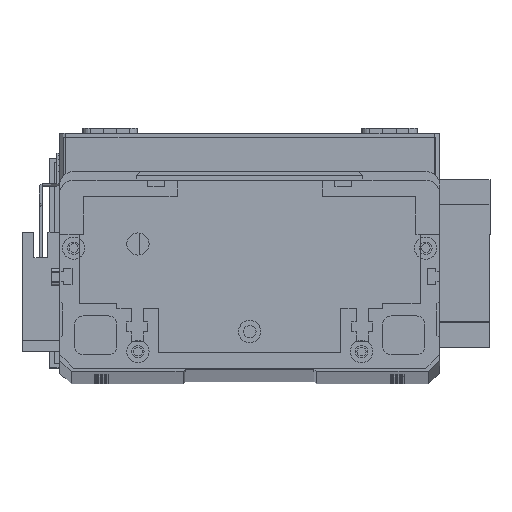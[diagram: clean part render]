
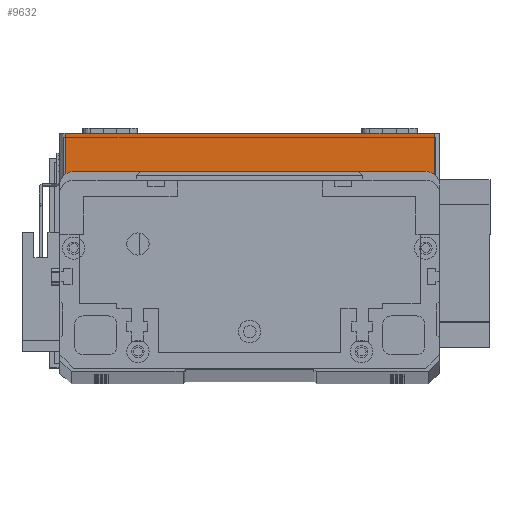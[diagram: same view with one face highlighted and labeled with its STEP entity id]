
A CAD part, top view. The second image highlights one B-rep face of the part: STEP entity #9632.
In plain terms, the highlighted planar face has unit normal (0, 0, 1) as drawn and (0, -1, 0) by its records, which use the part's own axes.
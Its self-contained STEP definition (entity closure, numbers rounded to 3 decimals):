
#1073 = VERTEX_POINT ( 'NONE', #17473 ) ;
#1252 = ORIENTED_EDGE ( 'NONE', *, *, #26222, .T. ) ;
#2216 = EDGE_CURVE ( 'NONE', #2953, #9731, #11970, .T. ) ;
#2273 = CARTESIAN_POINT ( 'NONE',  ( 2., 0., 19.5 ) ) ;
#2953 = VERTEX_POINT ( 'NONE', #4417 ) ;
#2981 = CARTESIAN_POINT ( 'NONE',  ( 0., 0., 19.5 ) ) ;
#3400 = PLANE ( 'NONE',  #9143 ) ;
#4417 = CARTESIAN_POINT ( 'NONE',  ( 134., 0., 0. ) ) ;
#4966 = VECTOR ( 'NONE', #8282, 1000. ) ;
#6146 = LINE ( 'NONE', #2273, #10904 ) ;
#6291 = CARTESIAN_POINT ( 'NONE',  ( 0., 0., 0. ) ) ;
#6823 = VERTEX_POINT ( 'NONE', #14331 ) ;
#7053 = LINE ( 'NONE', #2981, #25126 ) ;
#8169 = CARTESIAN_POINT ( 'NONE',  ( 0., 0., 19.5 ) ) ;
#8282 = DIRECTION ( 'NONE',  ( 0., 0., 1. ) ) ;
#8649 = DIRECTION ( 'NONE',  ( 1., 0., 0. ) ) ;
#8695 = VECTOR ( 'NONE', #8649, 1000. ) ;
#9143 = AXIS2_PLACEMENT_3D ( 'NONE', #8169, #27030, #12863 ) ;
#9632 = ADVANCED_FACE ( 'NONE', ( #30252 ), #3400, .F. ) ;
#9731 = VERTEX_POINT ( 'NONE', #17930 ) ;
#10904 = VECTOR ( 'NONE', #18859, 1000. ) ;
#11119 = ORIENTED_EDGE ( 'NONE', *, *, #22201, .F. ) ;
#11353 = ORIENTED_EDGE ( 'NONE', *, *, #2216, .T. ) ;
#11970 = LINE ( 'NONE', #17637, #4966 ) ;
#12863 = DIRECTION ( 'NONE',  ( 0., 0., 1. ) ) ;
#14331 = CARTESIAN_POINT ( 'NONE',  ( 2., 0., 0. ) ) ;
#17473 = CARTESIAN_POINT ( 'NONE',  ( 2., 0., 19.5 ) ) ;
#17637 = CARTESIAN_POINT ( 'NONE',  ( 134., 0., 19.5 ) ) ;
#17930 = CARTESIAN_POINT ( 'NONE',  ( 134., 0., 19.5 ) ) ;
#18859 = DIRECTION ( 'NONE',  ( 0., 0., -1. ) ) ;
#22201 = EDGE_CURVE ( 'NONE', #1073, #9731, #7053, .T. ) ;
#25012 = EDGE_CURVE ( 'NONE', #1073, #6823, #6146, .T. ) ;
#25126 = VECTOR ( 'NONE', #28889, 1000. ) ;
#26222 = EDGE_CURVE ( 'NONE', #6823, #2953, #27525, .T. ) ;
#27030 = DIRECTION ( 'NONE',  ( 0., 1., 0. ) ) ;
#27525 = LINE ( 'NONE', #6291, #8695 ) ;
#28889 = DIRECTION ( 'NONE',  ( 1., 0., 0. ) ) ;
#29803 = EDGE_LOOP ( 'NONE', ( #11119, #29846, #1252, #11353 ) ) ;
#29846 = ORIENTED_EDGE ( 'NONE', *, *, #25012, .T. ) ;
#30252 = FACE_OUTER_BOUND ( 'NONE', #29803, .T. ) ;
